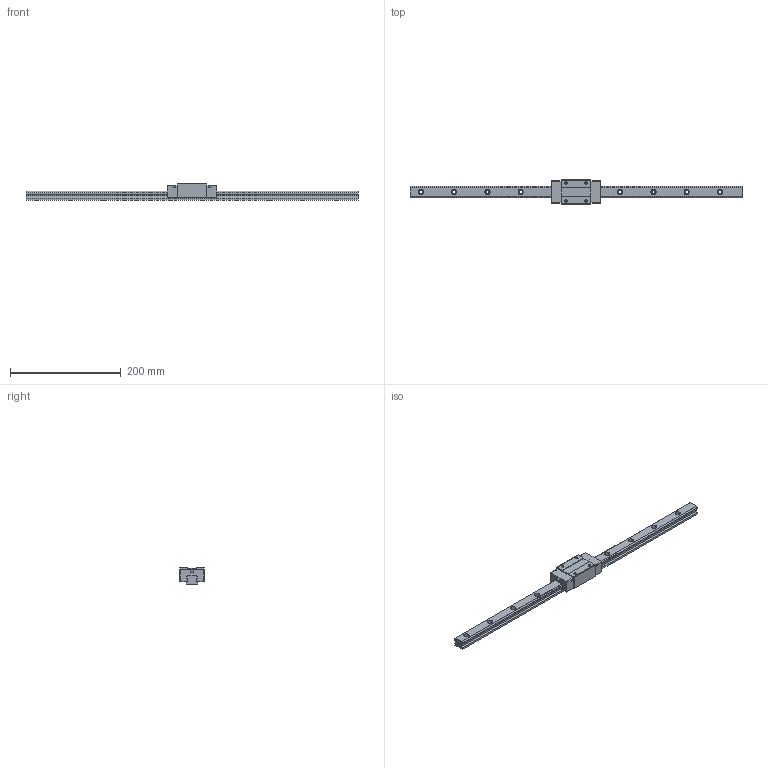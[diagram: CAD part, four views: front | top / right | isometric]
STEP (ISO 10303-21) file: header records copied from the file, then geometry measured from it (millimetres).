
FILE_DESCRIPTION (( 'STEP AP203' ), '1' );
FILE_NAME ('TRH20VN-SZ.STEP', '2024-07-10T02:30:26', ( '' ), ( '' ), 'SwSTEP 2.0', 'SolidWorks 2022', '' );
FILE_SCHEMA (( 'CONFIG_CONTROL_DESIGN' ));
Length unit declared in the file: millimetre
Products named in the file (1): TRH20VN-SZ
Bounding box: 600 x 44 x 30 mm (x, y, z)
Volume: 242176.2 mm3; surface area: 66375.9 mm2
Topology: 2 solids, 2 shells, 196 faces, 512 edges, 332 vertices
Faces by surface type: cylinder 96, plane 84, cone 16
Entity records: 6127 total; most frequent: DIRECTION 1098, CARTESIAN_POINT 1033, ORIENTED_EDGE 1008, EDGE_CURVE 504, AXIS2_PLACEMENT_3D 397, VERTEX_POINT 332, VECTOR 304, LINE 304
